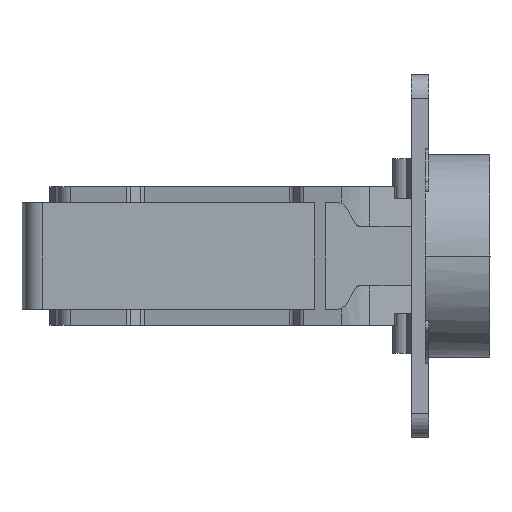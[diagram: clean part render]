
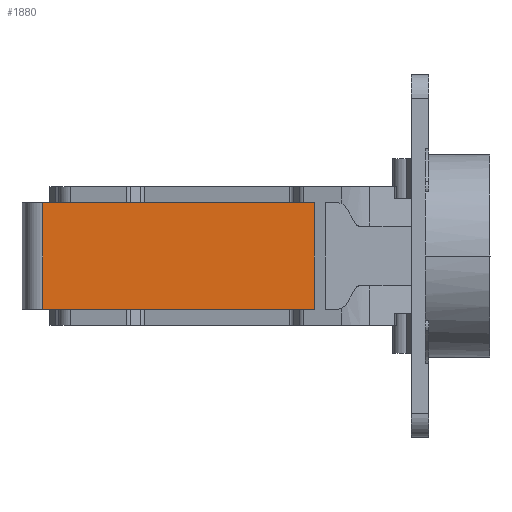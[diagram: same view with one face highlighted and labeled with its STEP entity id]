
A CAD part, front view. The second image highlights one B-rep face of the part: STEP entity #1880.
In plain terms, the highlighted planar face has unit normal (0.015, -1, 0).
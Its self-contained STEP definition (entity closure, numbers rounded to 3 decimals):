
#35 = EDGE_CURVE ( 'NONE', #157, #2685, #4951, .T. ) ;
#70 = CARTESIAN_POINT ( 'NONE',  ( 51.697, 26.357, 9.15 ) ) ;
#157 = VERTEX_POINT ( 'NONE', #2840 ) ;
#404 = LINE ( 'NONE', #5819, #3995 ) ;
#431 = CARTESIAN_POINT ( 'NONE',  ( 51.697, 26.357, -23.85 ) ) ;
#848 = DIRECTION ( 'NONE',  ( -0.015, 1., 0. ) ) ;
#874 = CARTESIAN_POINT ( 'NONE',  ( 3.987, 25.622, -23.85 ) ) ;
#908 = DIRECTION ( 'NONE',  ( -1., -0.015, 0. ) ) ;
#1461 = DIRECTION ( 'NONE',  ( 0., 0., -1. ) ) ;
#1816 = VECTOR ( 'NONE', #3001, 1000. ) ;
#1880 = ADVANCED_FACE ( 'NONE', ( #4222 ), #5672, .F. ) ;
#2408 = VECTOR ( 'NONE', #1461, 1000. ) ;
#2514 = AXIS2_PLACEMENT_3D ( 'NONE', #431, #848, #6171 ) ;
#2551 = EDGE_CURVE ( 'NONE', #157, #2563, #5396, .T. ) ;
#2563 = VERTEX_POINT ( 'NONE', #3385 ) ;
#2685 = VERTEX_POINT ( 'NONE', #3609 ) ;
#2707 = CARTESIAN_POINT ( 'NONE',  ( 3.987, 25.622, -9.15 ) ) ;
#2820 = DIRECTION ( 'NONE',  ( 0., 0., 1. ) ) ;
#2840 = CARTESIAN_POINT ( 'NONE',  ( 50.614, 26.341, 9.15 ) ) ;
#2845 = VERTEX_POINT ( 'NONE', #2707 ) ;
#3001 = DIRECTION ( 'NONE',  ( -1., -0.015, 0. ) ) ;
#3130 = ORIENTED_EDGE ( 'NONE', *, *, #5435, .F. ) ;
#3253 = EDGE_LOOP ( 'NONE', ( #3130, #3822, #4351, #5684 ) ) ;
#3265 = EDGE_CURVE ( 'NONE', #2845, #2563, #4314, .T. ) ;
#3385 = CARTESIAN_POINT ( 'NONE',  ( 3.987, 25.622, 9.15 ) ) ;
#3609 = CARTESIAN_POINT ( 'NONE',  ( 50.614, 26.341, -9.15 ) ) ;
#3822 = ORIENTED_EDGE ( 'NONE', *, *, #35, .F. ) ;
#3995 = VECTOR ( 'NONE', #908, 1000. ) ;
#4222 = FACE_OUTER_BOUND ( 'NONE', #3253, .T. ) ;
#4314 = LINE ( 'NONE', #874, #5163 ) ;
#4351 = ORIENTED_EDGE ( 'NONE', *, *, #2551, .T. ) ;
#4484 = CARTESIAN_POINT ( 'NONE',  ( 50.614, 26.341, -40.745 ) ) ;
#4951 = LINE ( 'NONE', #4484, #2408 ) ;
#5163 = VECTOR ( 'NONE', #2820, 1000. ) ;
#5396 = LINE ( 'NONE', #70, #1816 ) ;
#5435 = EDGE_CURVE ( 'NONE', #2685, #2845, #404, .T. ) ;
#5672 = PLANE ( 'NONE',  #2514 ) ;
#5684 = ORIENTED_EDGE ( 'NONE', *, *, #3265, .F. ) ;
#5819 = CARTESIAN_POINT ( 'NONE',  ( 73.766, 26.698, -9.15 ) ) ;
#6171 = DIRECTION ( 'NONE',  ( -1., -0.015, 0. ) ) ;
